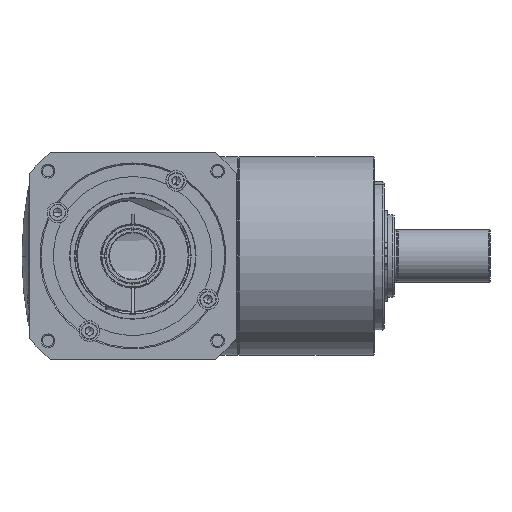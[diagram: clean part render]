
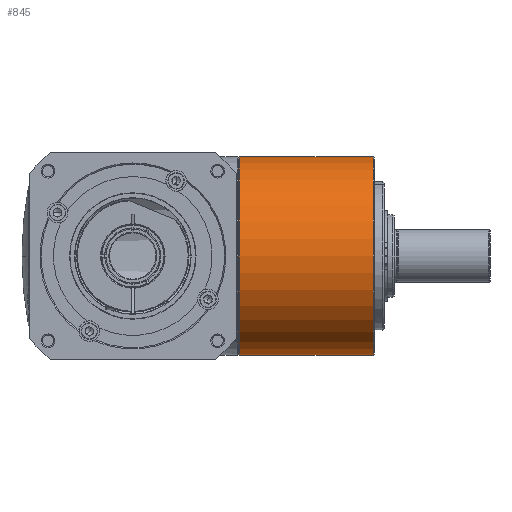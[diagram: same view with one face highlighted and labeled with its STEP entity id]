
A CAD part, front view. The second image highlights one B-rep face of the part: STEP entity #845.
In plain terms, the highlighted cylindrical face has radius 60 mm (diameter 120 mm), a partial arc.
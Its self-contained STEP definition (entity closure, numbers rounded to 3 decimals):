
#845 = ADVANCED_FACE ( 'NONE', ( #3136 ), #18968, .T. ) ;
#3136 = FACE_OUTER_BOUND ( 'NONE', #21619, .T. ) ;
#4493 = AXIS2_PLACEMENT_3D ( 'NONE', #36650, #38016, #33533 ) ;
#4847 = VERTEX_POINT ( 'NONE', #7124 ) ;
#6163 = VERTEX_POINT ( 'NONE', #27253 ) ;
#6240 = EDGE_CURVE ( 'NONE', #6163, #17385, #37997, .T. ) ;
#7124 = CARTESIAN_POINT ( 'NONE',  ( 64.5, 0., -60. ) ) ;
#7395 = CARTESIAN_POINT ( 'NONE',  ( 64.5, 0., 60. ) ) ;
#7835 = AXIS2_PLACEMENT_3D ( 'NONE', #34711, #22270, #40935 ) ;
#11491 = VERTEX_POINT ( 'NONE', #7395 ) ;
#17385 = VERTEX_POINT ( 'NONE', #39790 ) ;
#17609 = VECTOR ( 'NONE', #25728, 1000. ) ;
#17769 = DIRECTION ( 'NONE',  ( 0., 0., 1. ) ) ;
#18669 = ORIENTED_EDGE ( 'NONE', *, *, #28039, .T. ) ;
#18911 = CARTESIAN_POINT ( 'NONE',  ( 145.5, 0., 0. ) ) ;
#18968 = CYLINDRICAL_SURFACE ( 'NONE', #4493, 60. ) ;
#20852 = DIRECTION ( 'NONE',  ( -1., 0., 0. ) ) ;
#21619 = EDGE_LOOP ( 'NONE', ( #34164, #18669, #27240, #24443 ) ) ;
#21755 = LINE ( 'NONE', #24885, #38150 ) ;
#22270 = DIRECTION ( 'NONE',  ( 1., 0., 0. ) ) ;
#22802 = AXIS2_PLACEMENT_3D ( 'NONE', #18911, #20852, #17769 ) ;
#24443 = ORIENTED_EDGE ( 'NONE', *, *, #6240, .T. ) ;
#24885 = CARTESIAN_POINT ( 'NONE',  ( 116.368, 0., -60. ) ) ;
#25689 = CIRCLE ( 'NONE', #7835, 60. ) ;
#25728 = DIRECTION ( 'NONE',  ( 1., 0., 0. ) ) ;
#26545 = LINE ( 'NONE', #35688, #17609 ) ;
#27240 = ORIENTED_EDGE ( 'NONE', *, *, #30290, .T. ) ;
#27253 = CARTESIAN_POINT ( 'NONE',  ( 145.5, 0., -60. ) ) ;
#28039 = EDGE_CURVE ( 'NONE', #11491, #4847, #25689, .T. ) ;
#29328 = EDGE_CURVE ( 'NONE', #11491, #17385, #26545, .T. ) ;
#30290 = EDGE_CURVE ( 'NONE', #4847, #6163, #21755, .T. ) ;
#33533 = DIRECTION ( 'NONE',  ( 0., 0., -1. ) ) ;
#34164 = ORIENTED_EDGE ( 'NONE', *, *, #29328, .F. ) ;
#34711 = CARTESIAN_POINT ( 'NONE',  ( 64.5, 0., 0. ) ) ;
#35688 = CARTESIAN_POINT ( 'NONE',  ( 116.368, 0., 60. ) ) ;
#36650 = CARTESIAN_POINT ( 'NONE',  ( 116.368, 0., 0. ) ) ;
#37997 = CIRCLE ( 'NONE', #22802, 60. ) ;
#38016 = DIRECTION ( 'NONE',  ( 1., 0., 0. ) ) ;
#38150 = VECTOR ( 'NONE', #40628, 1000. ) ;
#39790 = CARTESIAN_POINT ( 'NONE',  ( 145.5, 0., 60. ) ) ;
#40628 = DIRECTION ( 'NONE',  ( 1., 0., 0. ) ) ;
#40935 = DIRECTION ( 'NONE',  ( 0., 0., -1. ) ) ;
